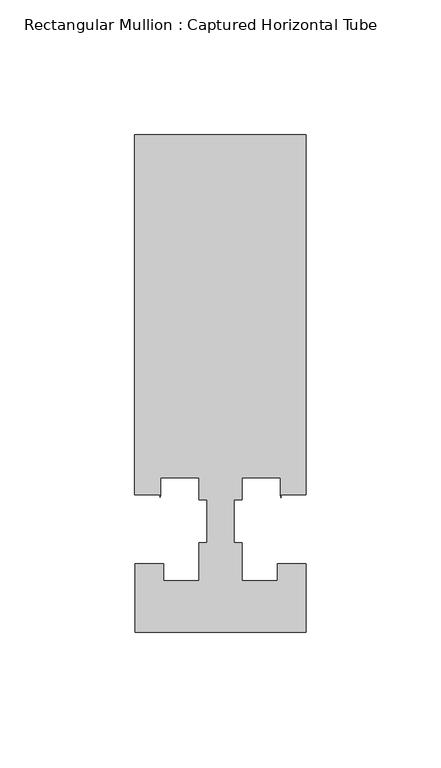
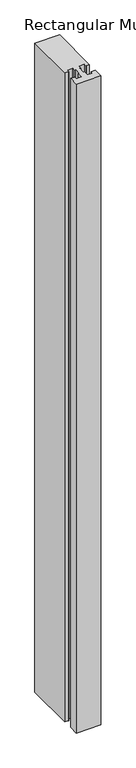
"""IFC4 building model written with IfcOpenShell, lengths in millimetres: member geometry, Rectangular Mullion : Captured Horizontal Tube."""

from ifc_helpers import new_model, si_unit, frame, origin, place, context, project, spatial, polyline, outline, extrude, source, transform, mapped, element, save


def rectangular_mullion_captured_horizontal_tube_e36badf5(model_context):
    return source(origin(), model_context, "Body", "SweptSolid", [
        extrude(outline(polyline([(31.7705663, 114.3), (31.7705663, -18.933673), (22.3913824, -18.933673), (22.3913824, -20.0839351), (22.2251125, -18.933673), (22.2251125, -12.7), (8.0416658, -12.7), (8.0416658, -20.8793999), (4.988785, -20.8793999), (4.988785, -36.6491027), (7.9374472, -36.6491027), (7.9374472, -50.8001709), (21.0845479, -50.8001709), (21.0845479, -44.4245655), (31.7705663, -44.4245655), (31.7705663, -69.8502416), (-31.7294337, -69.8502416), (-31.7294337, -44.4247364), (-21.0270883, -44.4247364), (-21.0270883, -50.8001709), (-7.9375539, -50.8001709), (-7.9375539, -36.6491027), (-4.9639474, -36.6491027), (-4.9639474, -20.8793999), (-7.9375542, -20.8793999), (-7.9375542, -12.7), (-22.2250091, -12.7), (-22.2250091, -18.948961), (-22.4113151, -19.8905485), (-22.4113151, -18.9488461), (-31.75, -18.9488461), (-31.75, 114.3), (31.7705663, 114.3)])), frame((0.0, 0.0, -1765.3), z_axis=(0.0, 0.0, 1.0), x_axis=(1.0, 0.0, 0.0)), (0.0, 0.0, 1.0), 1765.3),
    ])


if __name__ == "__main__":
    model = new_model("IFC4")
    model_context = context("Model", 3, world=origin())
    ifc_project = project(units=[si_unit("LENGTHUNIT", "METRE", prefix="MILLI")], contexts=[model_context])
    site = spatial("IfcSite", under=ifc_project)
    building = spatial("IfcBuilding", under=site)
    placement = place(None, origin())
    rectangular_mullion_captured_horizontal_tube_shape = rectangular_mullion_captured_horizontal_tube_e36badf5(model_context)
    element("IfcMember", 1, ObjectType="Rectangular Mullion : Captured Horizontal Tube", at=placement, inside=building, context=model_context, shape_type="MappedRepresentation", body=[
        mapped(rectangular_mullion_captured_horizontal_tube_shape, transform((0.0, 0.0, 0.0), x_axis=(1.0, 0.0, 0.0), y_axis=(0.0, 1.0, 0.0), z_axis=(0.0, 0.0, 1.0))),
    ])
    save(model, "model.ifc")
